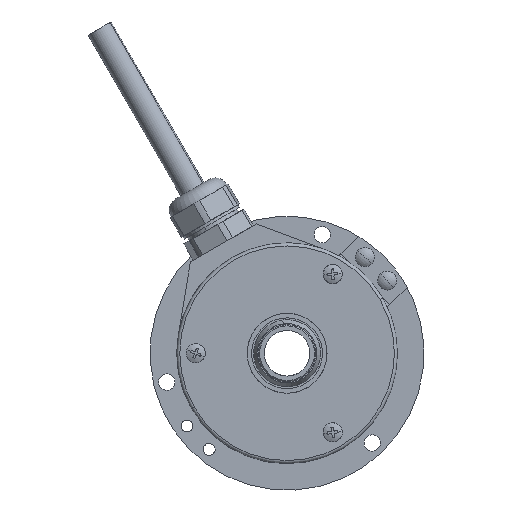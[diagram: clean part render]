
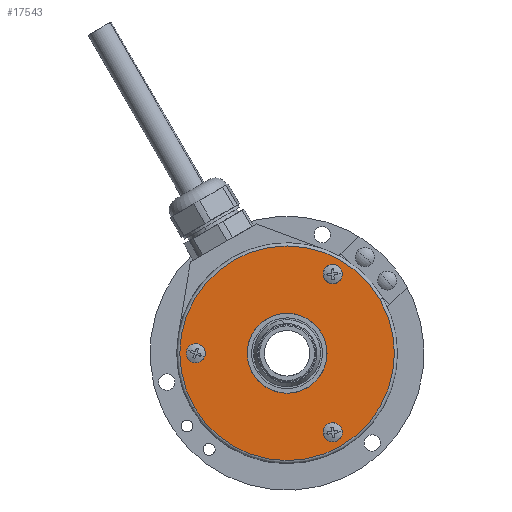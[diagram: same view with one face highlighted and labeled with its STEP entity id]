
A CAD part, left-side view. The second image highlights one B-rep face of the part: STEP entity #17543.
In plain terms, the highlighted planar face has unit normal (-1, 0, 0).
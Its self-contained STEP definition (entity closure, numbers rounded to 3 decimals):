
#2420 = CARTESIAN_POINT ( 'NONE',  ( 0., 26.165, -1.25 ) ) ;
#2421 = DIRECTION ( 'NONE',  ( 0., 0.866, -0.5 ) ) ;
#2422 = DIRECTION ( 'NONE',  ( -1., 0., 0. ) ) ;
#2423 = CARTESIAN_POINT ( 'NONE',  ( 0., 24., 0. ) ) ;
#2424 = AXIS2_PLACEMENT_3D ( 'NONE', #2423, #2422, #2421 ) ;
#2425 = CIRCLE ( 'NONE', #2424, 2.5 ) ;
#2426 = CARTESIAN_POINT ( 'NONE',  ( 0., 21.835, 1.25 ) ) ;
#2619 = CIRCLE ( 'NONE', #2676, 28.2 ) ;
#2653 = CARTESIAN_POINT ( 'NONE',  ( 0., -9.835, -22.035 ) ) ;
#2654 = DIRECTION ( 'NONE',  ( 0., 0.866, -0.5 ) ) ;
#2655 = DIRECTION ( 'NONE',  ( -1., 0., 0. ) ) ;
#2656 = CARTESIAN_POINT ( 'NONE',  ( 0., -12., -20.785 ) ) ;
#2657 = AXIS2_PLACEMENT_3D ( 'NONE', #2656, #2655, #2654 ) ;
#2658 = CIRCLE ( 'NONE', #2657, 2.5 ) ;
#2659 = CARTESIAN_POINT ( 'NONE',  ( 0., -14.165, -19.535 ) ) ;
#2671 = CARTESIAN_POINT ( 'NONE',  ( 0., -24.422, 14.1 ) ) ;
#2672 = CARTESIAN_POINT ( 'NONE',  ( 0., 24.422, -14.1 ) ) ;
#2673 = DIRECTION ( 'NONE',  ( 0., -0.866, 0.5 ) ) ;
#2674 = DIRECTION ( 'NONE',  ( -1., 0., 0. ) ) ;
#2675 = CARTESIAN_POINT ( 'NONE',  ( 0., 0., 0. ) ) ;
#2676 = AXIS2_PLACEMENT_3D ( 'NONE', #2675, #2674, #2673 ) ;
#2710 = CARTESIAN_POINT ( 'NONE',  ( 0., 9.093, -5.25 ) ) ;
#2711 = DIRECTION ( 'NONE',  ( 0., 0.866, -0.5 ) ) ;
#2712 = DIRECTION ( 'NONE',  ( -1., 0., 0. ) ) ;
#2713 = CARTESIAN_POINT ( 'NONE',  ( 0., 0., 0. ) ) ;
#2714 = AXIS2_PLACEMENT_3D ( 'NONE', #2713, #2712, #2711 ) ;
#2715 = CIRCLE ( 'NONE', #2714, 10.5 ) ;
#2716 = CARTESIAN_POINT ( 'NONE',  ( 0., -9.093, 5.25 ) ) ;
#2725 = CARTESIAN_POINT ( 'NONE',  ( 0., -9.835, 19.535 ) ) ;
#2726 = DIRECTION ( 'NONE',  ( 0., 0.866, -0.5 ) ) ;
#2727 = DIRECTION ( 'NONE',  ( -1., 0., 0. ) ) ;
#2728 = CARTESIAN_POINT ( 'NONE',  ( 0., -12., 20.785 ) ) ;
#2729 = AXIS2_PLACEMENT_3D ( 'NONE', #2728, #2727, #2726 ) ;
#2730 = CIRCLE ( 'NONE', #2729, 2.5 ) ;
#2731 = CARTESIAN_POINT ( 'NONE',  ( 0., -14.165, 22.035 ) ) ;
#3284 = FACE_BOUND ( 'NONE', #17615, .T. ) ;
#3285 = FACE_OUTER_BOUND ( 'NONE', #17611, .T. ) ;
#3286 = FACE_BOUND ( 'NONE', #17552, .T. ) ;
#3287 = FACE_BOUND ( 'NONE', #17548, .T. ) ;
#3293 = FACE_BOUND ( 'NONE', #17544, .T. ) ;
#3318 = DIRECTION ( 'NONE',  ( 0., 0.866, -0.5 ) ) ;
#3319 = DIRECTION ( 'NONE',  ( -1., 0., 0. ) ) ;
#3320 = CARTESIAN_POINT ( 'NONE',  ( 0., -12., 20.785 ) ) ;
#3321 = AXIS2_PLACEMENT_3D ( 'NONE', #3320, #3319, #3318 ) ;
#3322 = CIRCLE ( 'NONE', #3321, 2.5 ) ;
#3323 = DIRECTION ( 'NONE',  ( 0., 0.866, -0.5 ) ) ;
#3324 = DIRECTION ( 'NONE',  ( -1., 0., 0. ) ) ;
#3325 = CARTESIAN_POINT ( 'NONE',  ( 0., 24., 0. ) ) ;
#3326 = AXIS2_PLACEMENT_3D ( 'NONE', #3325, #3324, #3323 ) ;
#3327 = DIRECTION ( 'NONE',  ( 0., -0.866, 0.5 ) ) ;
#3328 = DIRECTION ( 'NONE',  ( 1., 0., 0. ) ) ;
#3329 = CARTESIAN_POINT ( 'NONE',  ( 0., -5.25, -9.093 ) ) ;
#3330 = AXIS2_PLACEMENT_3D ( 'NONE', #3329, #3328, #3327 ) ;
#3331 = CIRCLE ( 'NONE', #3326, 2.5 ) ;
#3332 = PLANE ( 'NONE',  #3330 ) ;
#3485 = DIRECTION ( 'NONE',  ( 0., 0.866, -0.5 ) ) ;
#3486 = DIRECTION ( 'NONE',  ( -1., 0., 0. ) ) ;
#3487 = CARTESIAN_POINT ( 'NONE',  ( 0., 0., 0. ) ) ;
#3488 = AXIS2_PLACEMENT_3D ( 'NONE', #3487, #3486, #3485 ) ;
#3489 = CIRCLE ( 'NONE', #3488, 10.5 ) ;
#3491 = DIRECTION ( 'NONE',  ( 0., -0.866, 0.5 ) ) ;
#3492 = DIRECTION ( 'NONE',  ( -1., 0., 0. ) ) ;
#3493 = CARTESIAN_POINT ( 'NONE',  ( 0., 0., 0. ) ) ;
#3494 = AXIS2_PLACEMENT_3D ( 'NONE', #3493, #3492, #3491 ) ;
#3495 = CIRCLE ( 'NONE', #3494, 28.2 ) ;
#3496 = DIRECTION ( 'NONE',  ( 0., 0.866, -0.5 ) ) ;
#3497 = DIRECTION ( 'NONE',  ( -1., 0., 0. ) ) ;
#3498 = CARTESIAN_POINT ( 'NONE',  ( 0., -12., -20.785 ) ) ;
#3499 = AXIS2_PLACEMENT_3D ( 'NONE', #3498, #3497, #3496 ) ;
#3500 = CIRCLE ( 'NONE', #3499, 2.5 ) ;
#17189 = VERTEX_POINT ( 'NONE', #2426 ) ;
#17192 = EDGE_CURVE ( 'NONE', #17189, #17193, #2425, .T. ) ;
#17193 = VERTEX_POINT ( 'NONE', #2420 ) ;
#17268 = EDGE_CURVE ( 'NONE', #17269, #17270, #2619, .T. ) ;
#17269 = VERTEX_POINT ( 'NONE', #2672 ) ;
#17270 = VERTEX_POINT ( 'NONE', #2671 ) ;
#17279 = VERTEX_POINT ( 'NONE', #2659 ) ;
#17281 = EDGE_CURVE ( 'NONE', #17279, #17282, #2658, .T. ) ;
#17282 = VERTEX_POINT ( 'NONE', #2653 ) ;
#17298 = VERTEX_POINT ( 'NONE', #2731 ) ;
#17300 = EDGE_CURVE ( 'NONE', #17298, #17302, #2730, .T. ) ;
#17302 = VERTEX_POINT ( 'NONE', #2725 ) ;
#17308 = VERTEX_POINT ( 'NONE', #2716 ) ;
#17310 = EDGE_CURVE ( 'NONE', #17308, #17312, #2715, .T. ) ;
#17312 = VERTEX_POINT ( 'NONE', #2710 ) ;
#17543 = ADVANCED_FACE ( 'NONE', ( #3293, #3287, #3286, #3285, #3284 ), #3332, .F. ) ;
#17544 = EDGE_LOOP ( 'NONE', ( #17545, #17547 ) ) ;
#17545 = ORIENTED_EDGE ( 'NONE', *, *, #17546, .F. ) ;
#17546 = EDGE_CURVE ( 'NONE', #17193, #17189, #3331, .T. ) ;
#17547 = ORIENTED_EDGE ( 'NONE', *, *, #17192, .F. ) ;
#17548 = EDGE_LOOP ( 'NONE', ( #17549, #17551 ) ) ;
#17549 = ORIENTED_EDGE ( 'NONE', *, *, #17550, .F. ) ;
#17550 = EDGE_CURVE ( 'NONE', #17302, #17298, #3322, .T. ) ;
#17551 = ORIENTED_EDGE ( 'NONE', *, *, #17300, .F. ) ;
#17552 = EDGE_LOOP ( 'NONE', ( #17553, #17610 ) ) ;
#17553 = ORIENTED_EDGE ( 'NONE', *, *, #17609, .F. ) ;
#17609 = EDGE_CURVE ( 'NONE', #17282, #17279, #3500, .T. ) ;
#17610 = ORIENTED_EDGE ( 'NONE', *, *, #17281, .F. ) ;
#17611 = EDGE_LOOP ( 'NONE', ( #17612, #17614 ) ) ;
#17612 = ORIENTED_EDGE ( 'NONE', *, *, #17613, .T. ) ;
#17613 = EDGE_CURVE ( 'NONE', #17270, #17269, #3495, .T. ) ;
#17614 = ORIENTED_EDGE ( 'NONE', *, *, #17268, .T. ) ;
#17615 = EDGE_LOOP ( 'NONE', ( #17616, #17618 ) ) ;
#17616 = ORIENTED_EDGE ( 'NONE', *, *, #17617, .F. ) ;
#17617 = EDGE_CURVE ( 'NONE', #17312, #17308, #3489, .T. ) ;
#17618 = ORIENTED_EDGE ( 'NONE', *, *, #17310, .F. ) ;
